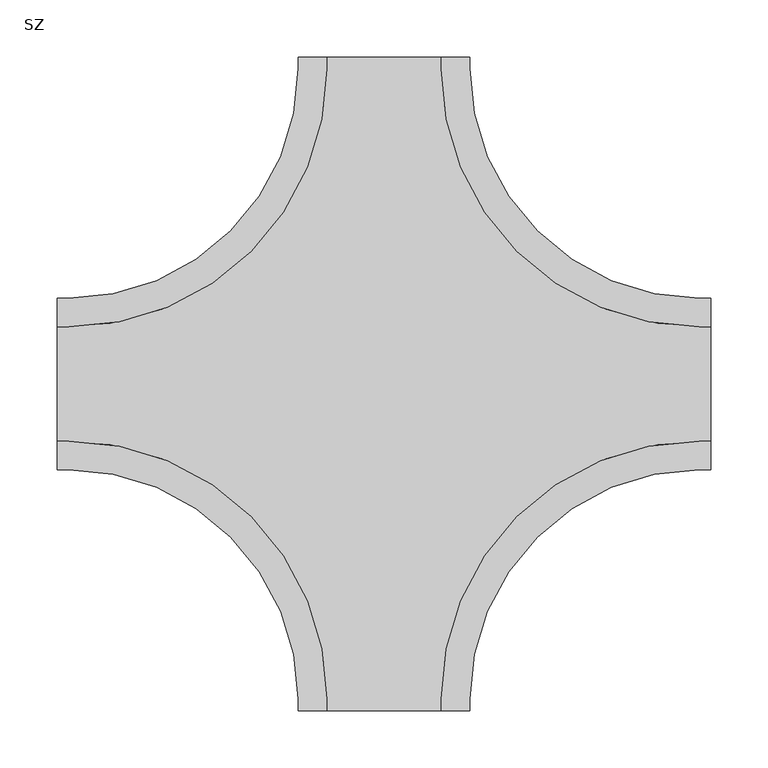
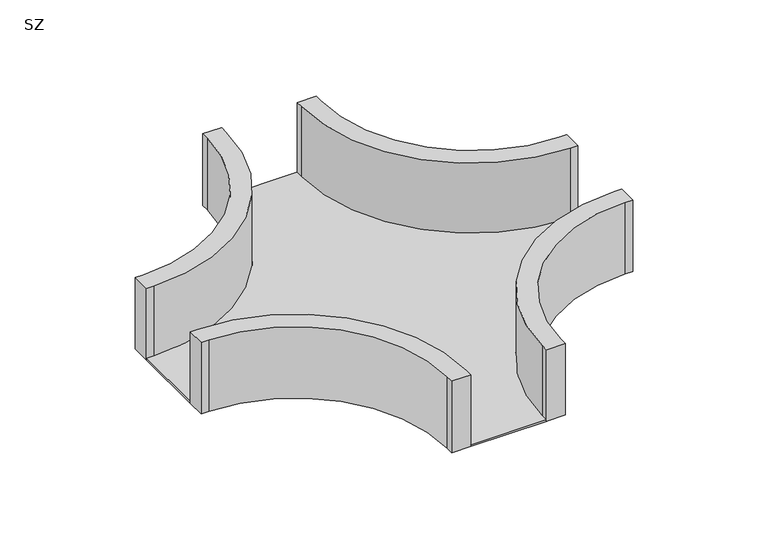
"""IFC4 building model written with IfcOpenShell, lengths in millimetres: cable carrier fitting geometry, IEK_Листовой_Крестовина плавная : SZ."""

from ifc_helpers import new_model, si_unit, point, frame, frame_2d, origin, place, context, project, spatial, polyline, circle_curve, trimmed, segment, composite_curve, outline, extrude, source, transform, mapped, element, save


def sz_d73c2f54(model_context):
    return source(origin(), model_context, "Body", "SweptSolid", [
        extrude(outline(composite_curve([segment(trimmed(circle_curve(frame_2d((-275.0, -275.0)), 200.0), [point((-75.0, -275.0))], [point((-275.0, -75.0))], True, "CARTESIAN"), True, "CONTINUOUS"), segment(polyline([(-275.0, -75.0), (-285.0, -75.0), (-285.0, -50.0), (-275.0, -50.0)]), True, "CONTINUOUS"), segment(trimmed(circle_curve(frame_2d((-275.0, -275.0)), 225.0), [point((-275.0, -50.0))], [point((-50.0, -275.0))], False, "CARTESIAN"), True, "CONTINUOUS"), segment(polyline([(-50.0, -275.0), (-50.0, -285.0), (-75.0, -285.0), (-75.0, -275.0)]), True, "CONTINUOUS")], self_intersect=False)), frame((0.0, 0.0, -50.0), z_axis=(0.0, 0.0, 1.0), x_axis=(1.0, 0.0, 0.0)), (0.0, 0.0, 1.0), 100.0),
        extrude(outline(composite_curve([segment(polyline([(75.0, -275.0), (75.0, -285.0), (50.0, -285.0), (50.0, -275.0)]), True, "CONTINUOUS"), segment(trimmed(circle_curve(frame_2d((275.0, -275.0)), 225.0), [point((50.0, -275.0))], [point((275.0, -50.0))], False, "CARTESIAN"), True, "CONTINUOUS"), segment(polyline([(275.0, -50.0), (285.0, -50.0), (285.0, -75.0), (275.0, -75.0)]), True, "CONTINUOUS"), segment(trimmed(circle_curve(frame_2d((275.0, -275.0)), 200.0), [point((275.0, -75.0))], [point((75.0, -275.0))], True, "CARTESIAN"), True, "CONTINUOUS")], self_intersect=False)), frame((0.0, 0.0, -50.0), z_axis=(0.0, 0.0, 1.0), x_axis=(1.0, 0.0, 0.0)), (0.0, 0.0, 1.0), 100.0),
        extrude(outline(composite_curve([segment(trimmed(circle_curve(frame_2d((-275.0, 275.0)), 225.0), [point((-50.0, 275.0))], [point((-275.0, 50.0))], False, "CARTESIAN"), True, "CONTINUOUS"), segment(polyline([(-275.0, 50.0), (-285.0, 50.0), (-285.0, 75.0), (-275.0, 75.0)]), True, "CONTINUOUS"), segment(trimmed(circle_curve(frame_2d((-275.0, 275.0)), 200.0), [point((-275.0, 75.0))], [point((-75.0, 275.0))], True, "CARTESIAN"), True, "CONTINUOUS"), segment(polyline([(-75.0, 275.0), (-75.0, 285.0), (-50.0, 285.0), (-50.0, 275.0)]), True, "CONTINUOUS")], self_intersect=False)), frame((0.0, 0.0, -50.0), z_axis=(0.0, 0.0, 1.0), x_axis=(1.0, 0.0, 0.0)), (0.0, 0.0, 1.0), 100.0),
        extrude(outline(composite_curve([segment(polyline([(50.0, 275.0), (50.0, 285.0), (75.0, 285.0), (75.0, 275.0)]), True, "CONTINUOUS"), segment(trimmed(circle_curve(frame_2d((275.0, 275.0)), 200.0), [point((75.0, 275.0))], [point((275.0, 75.0))], True, "CARTESIAN"), True, "CONTINUOUS"), segment(polyline([(275.0, 75.0), (285.0, 75.0), (285.0, 50.0), (275.0, 50.0)]), True, "CONTINUOUS"), segment(trimmed(circle_curve(frame_2d((275.0, 275.0)), 225.0), [point((275.0, 50.0))], [point((50.0, 275.0))], False, "CARTESIAN"), True, "CONTINUOUS")], self_intersect=False)), frame((0.0, 0.0, -50.0), z_axis=(0.0, 0.0, 1.0), x_axis=(1.0, 0.0, 0.0)), (0.0, 0.0, 1.0), 100.0),
        extrude(outline(composite_curve([segment(polyline([(-50.1538826, 285.0), (50.1538826, 285.0)]), True, "CONTINUOUS"), segment(trimmed(circle_curve(frame_2d((275.0, 275.0)), 225.0683819), [point((50.1538826, 285.0))], [point((285.0, 50.1538826))], True, "CARTESIAN"), True, "CONTINUOUS"), segment(polyline([(285.0, 50.1538826), (285.0, -50.1538826)]), True, "CONTINUOUS"), segment(trimmed(circle_curve(frame_2d((275.0, -275.0)), 225.0683819), [point((285.0, -50.1538826))], [point((50.1538826, -285.0))], True, "CARTESIAN"), True, "CONTINUOUS"), segment(polyline([(50.1538826, -285.0), (-50.1538826, -285.0)]), True, "CONTINUOUS"), segment(trimmed(circle_curve(frame_2d((-275.0, -275.0)), 225.0683819), [point((-50.1538826, -285.0))], [point((-285.0, -50.1538826))], True, "CARTESIAN"), True, "CONTINUOUS"), segment(polyline([(-285.0, -50.1538826), (-285.0, 50.1538826)]), True, "CONTINUOUS"), segment(trimmed(circle_curve(frame_2d((-275.0, 275.0)), 225.0683819), [point((-285.0, 50.1538826))], [point((-50.1538826, 285.0))], True, "CARTESIAN"), True, "CONTINUOUS")], self_intersect=False)), frame((0.0, 0.0, -50.0), z_axis=(0.0, 0.0, 1.0), x_axis=(1.0, 0.0, 0.0)), (0.0, 0.0, 1.0), 2.5),
    ])


if __name__ == "__main__":
    model = new_model("IFC4")
    model_context = context("Model", 3, world=origin())
    ifc_project = project(units=[si_unit("LENGTHUNIT", "METRE", prefix="MILLI")], contexts=[model_context])
    site = spatial("IfcSite", under=ifc_project)
    building = spatial("IfcBuilding", under=site)
    placement = place(None, origin())
    sz_shape = sz_d73c2f54(model_context)
    element("IfcCableCarrierFitting", 1, ObjectType="IEK_Листовой_Крестовина плавная : SZ", at=placement, inside=building, context=model_context, shape_type="MappedRepresentation", body=[
        mapped(sz_shape, transform((0.0, 0.0, 0.0), x_axis=(1.0, 0.0, 0.0), y_axis=(0.0, 1.0, 0.0), z_axis=(0.0, 0.0, 1.0))),
    ])
    save(model, "model.ifc")
